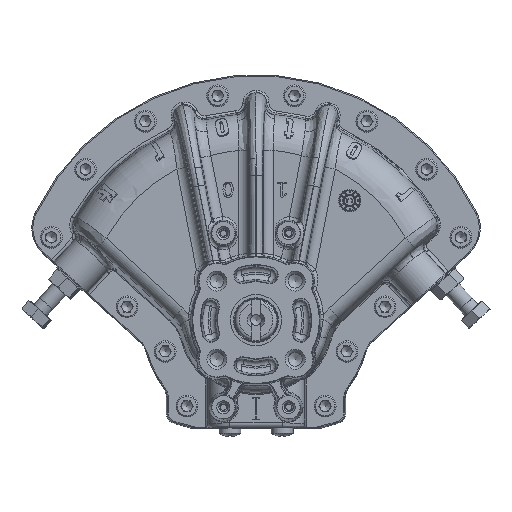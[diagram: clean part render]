
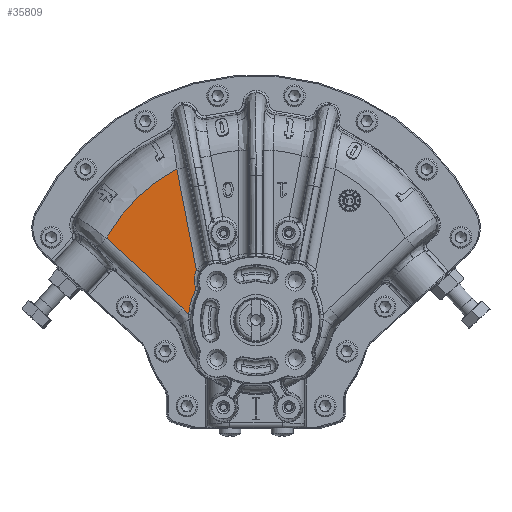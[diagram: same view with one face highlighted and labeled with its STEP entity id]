
A CAD part, top view. The second image highlights one B-rep face of the part: STEP entity #35809.
In plain terms, the highlighted planar face has unit normal (0, 0, 1).
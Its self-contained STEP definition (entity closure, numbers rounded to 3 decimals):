
#2288=LINE('',#97885,#3370);
#2289=LINE('',#97889,#3371);
#3370=VECTOR('',#58487,1000.);
#3371=VECTOR('',#58490,1000.);
#4135=PLANE('',#51526);
#5470=CIRCLE('',#51527,78.397);
#12982=ORIENTED_EDGE('',*,*,#20370,.T.);
#12983=ORIENTED_EDGE('',*,*,#20371,.T.);
#12984=ORIENTED_EDGE('',*,*,#20372,.T.);
#12985=ORIENTED_EDGE('',*,*,#20373,.T.);
#12986=ORIENTED_EDGE('',*,*,#20374,.T.);
#12987=ORIENTED_EDGE('',*,*,#20375,.T.);
#12988=ORIENTED_EDGE('',*,*,#20376,.T.);
#20370=EDGE_CURVE('',#24766,#24767,#27472,.T.);
#20371=EDGE_CURVE('',#24767,#24768,#27473,.T.);
#20372=EDGE_CURVE('',#24768,#24769,#27474,.T.);
#20373=EDGE_CURVE('',#24769,#24770,#27475,.T.);
#20374=EDGE_CURVE('',#24770,#24771,#2288,.T.);
#20375=EDGE_CURVE('',#24771,#24772,#5470,.F.);
#20376=EDGE_CURVE('',#24772,#24766,#2289,.F.);
#24766=VERTEX_POINT('',#97854);
#24767=VERTEX_POINT('',#97855);
#24768=VERTEX_POINT('',#97860);
#24769=VERTEX_POINT('',#97873);
#24770=VERTEX_POINT('',#97884);
#24771=VERTEX_POINT('',#97886);
#24772=VERTEX_POINT('',#97888);
#27472=B_SPLINE_CURVE_WITH_KNOTS('',3,(#97850,#97851,#97852,#97853),
 .UNSPECIFIED.,.F.,.F.,(4,4),(0.,0.004),.UNSPECIFIED.);
#27473=B_SPLINE_CURVE_WITH_KNOTS('',3,(#97856,#97857,#97858,#97859),
 .UNSPECIFIED.,.F.,.F.,(4,4),(0.,1.),.UNSPECIFIED.);
#27474=B_SPLINE_CURVE_WITH_KNOTS('',3,(#97861,#97862,#97863,#97864,#97865,
#97866,#97867,#97868,#97869,#97870,#97871,#97872),.UNSPECIFIED.,.F.,.F.,
(4,1,1,1,1,1,1,1,1,4),(0.,0.25,0.375,0.5,0.625,0.688,0.75,0.813,0.875,
1.),.UNSPECIFIED.);
#27475=B_SPLINE_CURVE_WITH_KNOTS('',3,(#97874,#97875,#97876,#97877,#97878,
#97879,#97880,#97881,#97882,#97883),.UNSPECIFIED.,.F.,.F.,(4,1,1,1,1,1,
1,4),(0.,0.25,0.375,0.5,0.625,0.75,0.875,1.),.UNSPECIFIED.);
#30099=EDGE_LOOP('',(#12982,#12983,#12984,#12985,#12986,#12987,#12988));
#32868=FACE_BOUND('',#30099,.T.);
#35809=ADVANCED_FACE('',(#32868),#4135,.F.);
#51526=AXIS2_PLACEMENT_3D('',#97849,#58485,#58486);
#51527=AXIS2_PLACEMENT_3D('',#97887,#58488,#58489);
#58485=DIRECTION('',(0.,0.,-1.));
#58486=DIRECTION('',(-1.,0.,0.));
#58487=DIRECTION('',(-0.191,0.982,0.));
#58488=DIRECTION('',(0.,0.,-1.));
#58489=DIRECTION('',(-1.,0.,0.));
#58490=DIRECTION('',(-0.737,0.676,0.));
#97849=CARTESIAN_POINT('',(0.,0.,59.135));
#97850=CARTESIAN_POINT('',(-33.706,5.673,59.135));
#97851=CARTESIAN_POINT('',(-32.711,4.761,59.135));
#97852=CARTESIAN_POINT('',(-31.799,3.781,59.135));
#97853=CARTESIAN_POINT('',(-30.97,2.734,59.135));
#97854=CARTESIAN_POINT('',(-33.706,5.673,59.135));
#97855=CARTESIAN_POINT('',(-30.97,2.734,59.135));
#97856=CARTESIAN_POINT('',(-30.97,2.734,59.135));
#97857=CARTESIAN_POINT('',(-30.629,6.591,59.135));
#97858=CARTESIAN_POINT('',(-29.572,10.349,59.135));
#97859=CARTESIAN_POINT('',(-27.85,13.819,59.135));
#97860=CARTESIAN_POINT('',(-27.85,13.819,59.135));
#97861=CARTESIAN_POINT('',(-27.85,13.819,59.135));
#97862=CARTESIAN_POINT('',(-27.803,13.914,59.135));
#97863=CARTESIAN_POINT('',(-27.755,14.073,59.135));
#97864=CARTESIAN_POINT('',(-27.736,14.303,59.135));
#97865=CARTESIAN_POINT('',(-27.748,14.509,59.135));
#97866=CARTESIAN_POINT('',(-27.767,14.626,59.135));
#97867=CARTESIAN_POINT('',(-27.789,14.734,59.135));
#97868=CARTESIAN_POINT('',(-27.815,14.843,59.135));
#97869=CARTESIAN_POINT('',(-27.819,14.857,59.135));
#97870=CARTESIAN_POINT('',(-27.846,14.952,59.135));
#97871=CARTESIAN_POINT('',(-27.874,15.052,59.135));
#97872=CARTESIAN_POINT('',(-27.899,15.138,59.135));
#97873=CARTESIAN_POINT('',(-27.899,15.138,59.135));
#97874=CARTESIAN_POINT('',(-27.899,15.138,59.135));
#97875=CARTESIAN_POINT('',(-28.096,15.826,59.135));
#97876=CARTESIAN_POINT('',(-28.308,16.835,59.135));
#97877=CARTESIAN_POINT('',(-28.418,18.155,59.135));
#97878=CARTESIAN_POINT('',(-28.42,19.083,59.135));
#97879=CARTESIAN_POINT('',(-28.319,20.149,59.135));
#97880=CARTESIAN_POINT('',(-28.122,21.113,59.135));
#97881=CARTESIAN_POINT('',(-27.798,22.123,59.135));
#97882=CARTESIAN_POINT('',(-27.514,22.734,59.135));
#97883=CARTESIAN_POINT('',(-27.354,23.031,59.135));
#97884=CARTESIAN_POINT('',(-27.354,23.031,59.135));
#97885=CARTESIAN_POINT('',(-22.044,-4.285,59.135));
#97886=CARTESIAN_POINT('',(-36.376,69.447,59.135));
#97887=CARTESIAN_POINT('',(0.,0.,59.135));
#97888=CARTESIAN_POINT('',(-68.71,37.749,59.135));
#97889=CARTESIAN_POINT('',(-33.594,5.571,59.135));
